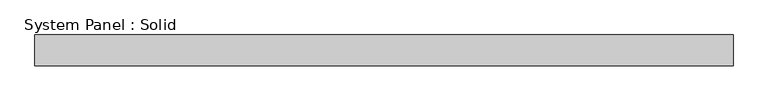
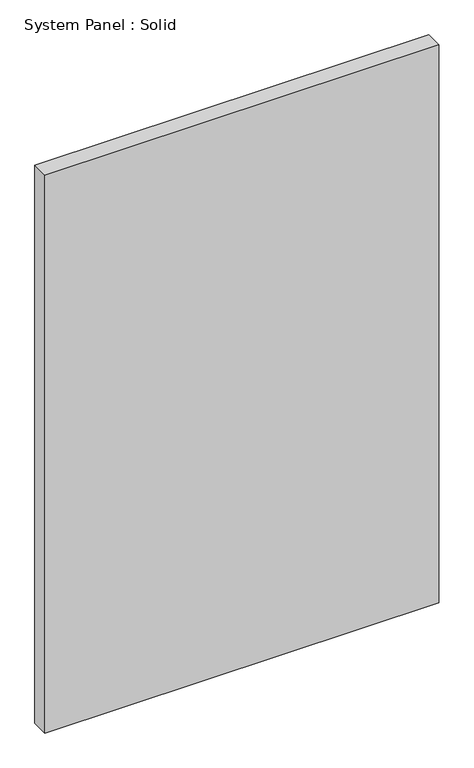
"""IFC4 building model written with IfcOpenShell, lengths in millimetres: plate geometry, System Panel : Solid."""

from ifc_helpers import new_model, si_unit, origin, origin_with_axes, place, context, project, spatial, polyline, outline, extrude, source, transform, mapped, element, save


def system_panel_solid_2d037642(model_context):
    return source(origin(), model_context, "Body", "SweptSolid", [
        extrude(outline(polyline([(723.1944444, -19.05), (-723.1944444, -19.05), (-723.1944444, 44.45), (723.1944444, 44.45), (723.1944444, -19.05)])), origin_with_axes(), (0.0, 0.0, 1.0), 2165.35),
    ])


if __name__ == "__main__":
    model = new_model("IFC4")
    model_context = context("Model", 3, world=origin())
    ifc_project = project(units=[si_unit("LENGTHUNIT", "METRE", prefix="MILLI")], contexts=[model_context])
    site = spatial("IfcSite", under=ifc_project)
    building = spatial("IfcBuilding", under=site)
    placement = place(None, origin())
    system_panel_solid_shape = system_panel_solid_2d037642(model_context)
    element("IfcPlate", 1, ObjectType="System Panel : Solid", at=placement, inside=building, context=model_context, shape_type="MappedRepresentation", body=[
        mapped(system_panel_solid_shape, transform((0.0, 0.0, 0.0), x_axis=(1.0, 0.0, 0.0), y_axis=(0.0, 1.0, 0.0), z_axis=(0.0, 0.0, 1.0))),
    ])
    save(model, "model.ifc")
